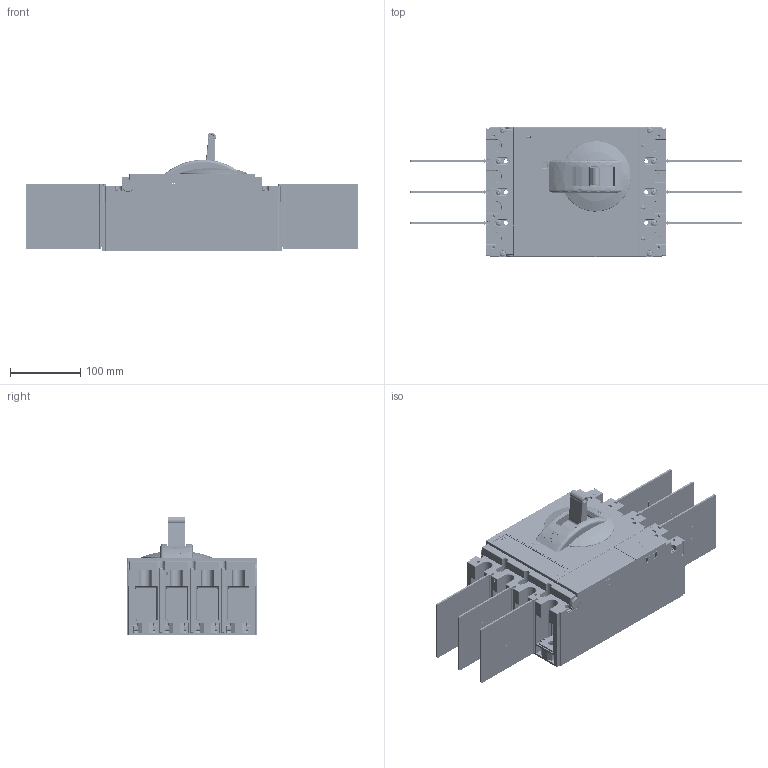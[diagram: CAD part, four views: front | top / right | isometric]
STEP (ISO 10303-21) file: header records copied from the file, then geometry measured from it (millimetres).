
FILE_DESCRIPTION(/* description */ (''),/* implementation_level */ '2;1');
FILE_NAME(/* name */ 'CM5-400(630) 4P.stp',/* time_stamp */ '2017-09-19T15:08:48+08:00',/* author */ (''),/* organization */ (''),/* preprocessor_version */ 'ST-DEVELOPER v11',/* originating_system */ 'SIEMENS PLM Software NX 7.5',/* authorisation */ '');
FILE_SCHEMA (('CONFIG_CONTROL_DESIGN'));
Products named in the file (1): model123
Bounding box: 472 x 184 x 168.69 mm (x, y, z)
Volume: 1883500 mm3; surface area: 1267277.6 mm2
Topology: 67 solids, 68 shells, 12655 faces, 34087 edges, 21422 vertices
Faces by surface type: plane 6481, cylinder 4605, torus 851, sphere 464, bspline 160, extrusion 53, cone 41
Full cylindrical faces by diameter (mm): 1.5 x268, 1.6 x2, 2 x3, 2.3 x10, 2.4 x5, 2.5 x8, 2.52 x4, 2.6 x1, 2.7 x2, 2.9 x3, 3 x8, 3.1 x8, 3.2 x37, 3.3 x26, 3.432 x6, 4 x51, 4.2 x32, 4.3 x20, 4.6 x2, 4.9 x8, 5 x22, 5.2 x4, 5.5 x12, 5.6 x3, 6 x44, 6.5 x6, 7 x24, 7.9 x6, 8 x26, 8.5 x4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
Entity records: 395901 total; most frequent: CARTESIAN_POINT 77236, DIRECTION 67585, ORIENTED_EDGE 65148, EDGE_CURVE 32574, AXIS2_PLACEMENT_3D 23302, VERTEX_POINT 21197, VECTOR 20981, LINE 20928
